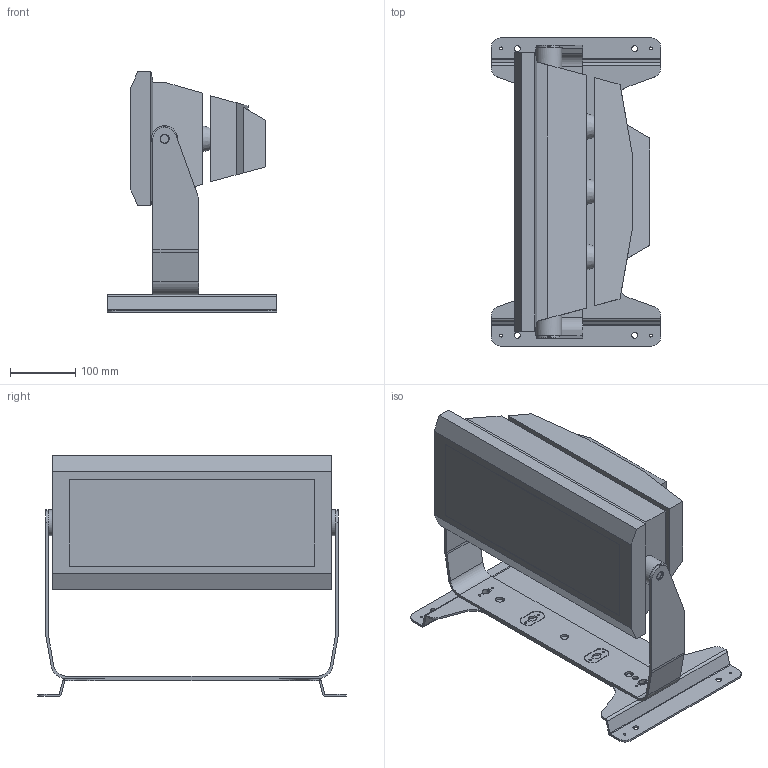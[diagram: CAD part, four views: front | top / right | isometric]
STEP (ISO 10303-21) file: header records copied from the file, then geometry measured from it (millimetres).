
FILE_DESCRIPTION(/* description */ ('Unknown'),/* implementation_level */ '2;1');
FILE_NAME(/* name */ '3D_CycPix 12 ',/* time_stamp */ '2017-02-17T09:54:21+01:00',/* author */ ('Unknown'),/* organization */ ('Unknown'),/* preprocessor_version */ 'ST-DEVELOPER v16.7',/* originating_system */ 'DEX',/* authorisation */ $);
FILE_SCHEMA (('AUTOMOTIVE_DESIGN {1 0 10303 214 3 1 1}'));
Length unit declared in the file: millimetre
Products named in the file (1): 3D_CycPix 12 
Bounding box: 260 x 472.86 x 369.31 mm (x, y, z)
Volume: 10583887.4 mm3; surface area: 663568.8 mm2
Topology: 1 solids, 1 shells, 257 faces, 662 edges, 436 vertices
Faces by surface type: plane 139, cylinder 103, cone 15
Full cylindrical faces by diameter (mm): 3.6 x8, 4.134 x4, 5 x4, 6 x9, 9 x5, 12 x2, 13 x3, 13.1 x2, 24 x4, 40 x2
Entity records: 7472 total; most frequent: DIRECTION 1328, CARTESIAN_POINT 1258, ORIENTED_EDGE 1168, EDGE_CURVE 584, AXIS2_PLACEMENT_3D 486, VERTEX_POINT 416, EDGE_LOOP 372, FACE_BOUND 372
